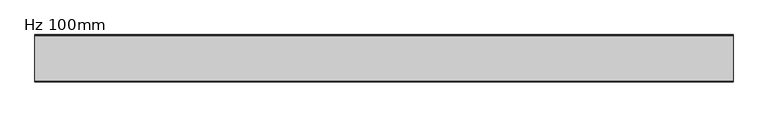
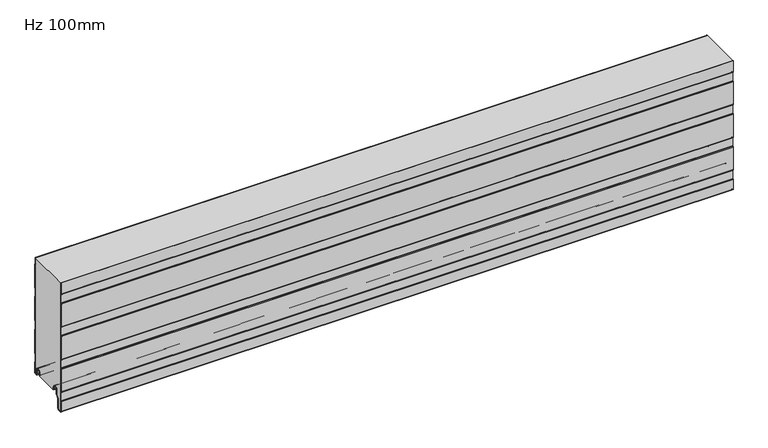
"""IFC4 building model written with IfcOpenShell, lengths in millimetres: plate geometry, KIP-MEX-KSS-1067-R19-CP-Hz-SL_SL : Hz 100mm."""

from ifc_helpers import new_model, si_unit, point, frame, frame_2d, origin, place, context, project, spatial, polyline, circle_curve, trimmed, segment, composite_curve, outline, extrude, source, transform, mapped, element, save
from ifc_brep_helpers import plane_surface, cylinder_surface, revolved_surface, advanced_brep


def hz_100mm_cce7cdb2(model_context):
    return source(origin(), model_context, "Body", "SolidModel", [
        advanced_brep(
        [(-740.0, -17.0015159, 2.0313088), (-740.0, -18.0015191, 1.0313116), (-740.0, -19.0015105, 2.0313088), (-740.0, -19.0015105, 6.0315125), (-740.0, -18.0015159, 6.0315125), (-740.0, -18.0015159, 8.7237223), (-740.0, -14.7015202, 12.023718), (-740.0, -10.301529, 12.023718), (-740.0, -7.0015335, 8.7237225), (-740.0, -7.0015335, -1.6962564), (-740.0, -5.2315393, -3.4662506), (-740.0, -0.9999916, -3.4662506), (-740.0, -0.9999916, 21.034026), (-740.0, -2.2002307, 22.4196686), (-740.0, -2.2002307, 41.7948349), (-740.0, -1.0, 43.1804679), (-740.0, -1.0, 97.2338833), (-740.0, -2.2002307, 98.6195162), (-740.0, -2.2002307, 117.9946825), (-740.0, -1.0, 119.3803155), (-740.0, -1.0, 173.4337309), (-740.0, -2.2002307, 174.8193638), (-740.0, -2.2002307, 194.1945301), (-740.0, -1.0, 195.5801631), (-740.0, -1.0, 249.6335785), (-740.0, -2.2002307, 251.0192114), (-740.0, -2.2002307, 266.0), (-740.0, -1.2002307, 266.0), (-740.0, -1.2002307, 251.3920919), (-740.0, -0.3417885, 250.4010442), (-740.0, 0.0, 249.4844273), (-740.0, 0.0, 195.7293142), (-740.0, -0.3417885, 194.8126973), (-740.0, -1.2002307, 193.8216497), (-740.0, -1.2002307, 175.1922443), (-740.0, -0.3417885, 174.2011966), (-740.0, 0.0, 173.2845797), (-740.0, 0.0, 119.5294666), (-740.0, -0.3417885, 118.6128497), (-740.0, -1.2002307, 117.6218021), (-740.0, -1.2002307, 98.9923967), (-740.0, -0.3417885, 98.001349), (-740.0, 0.0, 97.0847321), (-740.0, 0.0, 43.329619), (-740.0, -0.3417885, 42.4130021), (-740.0, -1.2002307, 41.4219545), (-740.0, -1.2002307, 22.7925491), (-740.0, -0.3417885, 21.8015014), (-740.0, 0.0, 20.8847931), (-740.0, 8.4e-06, -3.0662545), (-740.0, -1.3999878, -4.4662506), (-740.0, -5.2315393, -4.4662506), (-740.0, -8.0015335, -1.6962564), (-740.0, -8.0015335, 8.7237225), (-740.0, -10.301529, 11.023718), (-740.0, -14.7015202, 11.023718), (-740.0, -17.0015159, 8.7237223), (740.0, -17.0015159, 2.0313088), (740.0, -17.0015159, 8.7237223), (740.0, -14.7015202, 11.023718), (740.0, -10.301529, 11.023718), (740.0, -8.0015335, 8.7237225), (740.0, -8.0015335, -1.6962564), (740.0, -5.2315393, -4.4662506), (740.0, -1.3999878, -4.4662506), (740.0, 8.4e-06, -3.0662545), (740.0, 8.4e-06, 20.8848845), (740.0, -0.3417885, 21.8015014), (740.0, -1.2002307, 22.7925491), (740.0, -1.2002307, 41.4219545), (740.0, -0.3417885, 42.4130021), (740.0, 0.0, 43.329619), (740.0, 0.0, 97.0847321), (740.0, -0.3417885, 98.001349), (740.0, -1.2002307, 98.9923967), (740.0, -1.2002307, 117.6218021), (740.0, -0.3417885, 118.6128497), (740.0, 0.0, 119.5294666), (740.0, 0.0, 173.2845797), (740.0, -0.3417885, 174.2011966), (740.0, -1.2002307, 175.1922443), (740.0, -1.2002307, 193.8216497), (740.0, -0.3417885, 194.8126973), (740.0, 0.0, 195.7293142), (740.0, 0.0, 249.4844273), (740.0, -0.3417885, 250.4010442), (740.0, -1.2002307, 251.3920919), (740.0, -1.2002307, 266.0), (740.0, -2.2002307, 266.0), (740.0, -2.2002307, 251.0192114), (740.0, -1.0, 249.6335785), (740.0, -1.0, 195.5801631), (740.0, -2.2002307, 194.1945301), (740.0, -2.2002307, 174.8193638), (740.0, -1.0, 173.4337309), (740.0, -1.0, 119.3803155), (740.0, -2.2002307, 117.9946825), (740.0, -2.2002307, 98.6195162), (740.0, -1.0, 97.2338833), (740.0, -1.0, 43.1804679), (740.0, -2.2002307, 41.7948349), (740.0, -2.2002307, 22.4196686), (740.0, -0.9999916, 21.034026), (740.0, -0.9999916, -3.4662506), (740.0, -5.2315393, -3.4662506), (740.0, -7.0015335, -1.6962564), (740.0, -7.0015335, 8.7237225), (740.0, -10.301529, 12.023718), (740.0, -14.7015202, 12.023718), (740.0, -18.0015159, 8.7237223), (740.0, -18.0015159, 6.0315125), (740.0, -19.0015105, 6.0315125), (740.0, -19.0015105, 2.0313088), (740.0, -18.0015192, 1.0313116)],
        [
            (0, 1, circle_curve(frame((-740.0, -18.0015132, 2.0313088), z_axis=(-1.0, 0.0, 0.0), x_axis=(0.0, 0.0, 1.0)), 0.9999973)),
            (1, 2, circle_curve(frame((-740.0, -18.0015133, 2.0313088), z_axis=(-1.0, 0.0, 0.0), x_axis=(0.0, 0.0, 1.0)), 0.9999972)),
            (2, 3),
            (3, 4),
            (4, 5),
            (5, 6, circle_curve(frame((-740.0, -14.7015202, 8.7237223), z_axis=(-1.0, 0.0, 0.0), x_axis=(0.0, 0.0, 1.0)), 3.2999957)),
            (6, 7),
            (7, 8, circle_curve(frame((-740.0, -10.301529, 8.7237225), z_axis=(-1.0, 0.0, 0.0), x_axis=(0.0, 0.0, 1.0)), 3.2999955)),
            (8, 9),
            (9, 10, circle_curve(frame((-740.0, -5.2315393, -1.6962564), z_axis=(1.0, 0.0, 0.0), x_axis=(0.0, 0.0, 1.0)), 1.7699942)),
            (10, 11),
            (11, 12),
            (12, 13),
            (13, 14),
            (14, 15),
            (15, 16),
            (16, 17),
            (17, 18),
            (18, 19),
            (19, 20),
            (20, 21),
            (21, 22),
            (22, 23),
            (23, 24),
            (24, 25),
            (25, 26),
            (26, 27),
            (27, 28),
            (28, 29),
            (29, 30, circle_curve(frame((-740.0, -1.3999972, 249.4844273), z_axis=(-1.0, 0.0, 0.0), x_axis=(0.0, 0.0, 1.0)), 1.3999972)),
            (30, 31),
            (31, 32, circle_curve(frame((-740.0, -1.3999972, 195.7293142), z_axis=(-1.0, 0.0, 0.0), x_axis=(0.0, 0.0, 1.0)), 1.3999972)),
            (32, 33),
            (33, 34),
            (34, 35),
            (35, 36, circle_curve(frame((-740.0, -1.3999972, 173.2845797), z_axis=(-1.0, 0.0, 0.0), x_axis=(0.0, 0.0, 1.0)), 1.3999972)),
            (36, 37),
            (37, 38, circle_curve(frame((-740.0, -1.3999972, 119.5294666), z_axis=(-1.0, 0.0, 0.0), x_axis=(0.0, 0.0, 1.0)), 1.3999972)),
            (38, 39),
            (39, 40),
            (40, 41),
            (41, 42, circle_curve(frame((-740.0, -1.3999972, 97.0847321), z_axis=(-1.0, 0.0, 0.0), x_axis=(0.0, 0.0, 1.0)), 1.3999972)),
            (42, 43),
            (43, 44, circle_curve(frame((-740.0, -1.3999972, 43.329619), z_axis=(-1.0, 0.0, 0.0), x_axis=(0.0, 0.0, 1.0)), 1.3999972)),
            (44, 45),
            (45, 46),
            (46, 47),
            (47, 48, circle_curve(frame((-740.0, -1.3999972, 20.8848845), z_axis=(-1.0, 0.0, 0.0), x_axis=(0.0, 0.0, 1.0)), 1.3999972)),
            (48, 49),
            (49, 50, circle_curve(frame((-740.0, -1.3999878, -3.0662545), z_axis=(-1.0, 0.0, 0.0), x_axis=(0.0, 0.0, 1.0)), 1.3999962)),
            (50, 51),
            (51, 52, circle_curve(frame((-740.0, -5.2315393, -1.6962564), z_axis=(-1.0, 0.0, 0.0), x_axis=(0.0, 0.0, 1.0)), 2.7699942)),
            (52, 53),
            (53, 54, circle_curve(frame((-740.0, -10.301529, 8.7237225), z_axis=(1.0, 0.0, 0.0), x_axis=(0.0, 0.0, 1.0)), 2.2999955)),
            (54, 55),
            (55, 56, circle_curve(frame((-740.0, -14.7015202, 8.7237223), z_axis=(1.0, 0.0, 0.0), x_axis=(0.0, 0.0, 1.0)), 2.2999957)),
            (56, 0),
            (57, 58),
            (58, 59, circle_curve(frame((740.0, -14.7015202, 8.7237223), z_axis=(-1.0, 0.0, 0.0), x_axis=(0.0, 0.0, 1.0)), 2.2999957)),
            (59, 60),
            (60, 61, circle_curve(frame((740.0, -10.301529, 8.7237225), z_axis=(-1.0, 0.0, 0.0), x_axis=(0.0, 0.0, 1.0)), 2.2999955)),
            (61, 62),
            (62, 63, circle_curve(frame((740.0, -5.2315393, -1.6962564), z_axis=(1.0, 0.0, 0.0), x_axis=(0.0, 0.0, 1.0)), 2.7699942)),
            (63, 64),
            (64, 65, circle_curve(frame((740.0, -1.3999878, -3.0662545), z_axis=(1.0, 0.0, 0.0), x_axis=(0.0, 0.0, 1.0)), 1.3999962)),
            (65, 66),
            (66, 67, circle_curve(frame((740.0, -1.3999972, 20.8848845), z_axis=(1.0, 0.0, 0.0), x_axis=(0.0, 0.0, 1.0)), 1.3999972)),
            (67, 68),
            (68, 69),
            (69, 70),
            (70, 71, circle_curve(frame((740.0, -1.3999972, 43.329619), z_axis=(1.0, 0.0, 0.0), x_axis=(0.0, 0.0, 1.0)), 1.3999972)),
            (71, 72),
            (72, 73, circle_curve(frame((740.0, -1.3999972, 97.0847321), z_axis=(1.0, 0.0, 0.0), x_axis=(0.0, 0.0, 1.0)), 1.3999972)),
            (73, 74),
            (74, 75),
            (75, 76),
            (76, 77, circle_curve(frame((740.0, -1.3999972, 119.5294666), z_axis=(1.0, 0.0, 0.0), x_axis=(0.0, 0.0, 1.0)), 1.3999972)),
            (77, 78),
            (78, 79, circle_curve(frame((740.0, -1.3999972, 173.2845797), z_axis=(1.0, 0.0, 0.0), x_axis=(0.0, 0.0, 1.0)), 1.3999972)),
            (79, 80),
            (80, 81),
            (81, 82),
            (82, 83, circle_curve(frame((740.0, -1.3999972, 195.7293142), z_axis=(1.0, 0.0, 0.0), x_axis=(0.0, 0.0, 1.0)), 1.3999972)),
            (83, 84),
            (84, 85, circle_curve(frame((740.0, -1.3999972, 249.4844273), z_axis=(1.0, 0.0, 0.0), x_axis=(0.0, 0.0, 1.0)), 1.3999972)),
            (85, 86),
            (86, 87),
            (87, 88),
            (88, 89),
            (89, 90),
            (90, 91),
            (91, 92),
            (92, 93),
            (93, 94),
            (94, 95),
            (95, 96),
            (96, 97),
            (97, 98),
            (98, 99),
            (99, 100),
            (100, 101),
            (101, 102),
            (102, 103),
            (103, 104),
            (104, 105, circle_curve(frame((740.0, -5.2315393, -1.6962564), z_axis=(-1.0, 0.0, 0.0), x_axis=(0.0, 0.0, 1.0)), 1.7699942)),
            (105, 106),
            (106, 107, circle_curve(frame((740.0, -10.301529, 8.7237225), z_axis=(1.0, 0.0, 0.0), x_axis=(0.0, 0.0, 1.0)), 3.2999955)),
            (107, 108),
            (108, 109, circle_curve(frame((740.0, -14.7015202, 8.7237223), z_axis=(1.0, 0.0, 0.0), x_axis=(0.0, 0.0, 1.0)), 3.2999957)),
            (109, 110),
            (110, 111),
            (111, 112),
            (112, 113, circle_curve(frame((740.0, -18.0015133, 2.0313088), z_axis=(1.0, 0.0, 0.0), x_axis=(0.0, 0.0, 1.0)), 0.9999972)),
            (113, 57, circle_curve(frame((740.0, -18.0015132, 2.0313088), z_axis=(1.0, 0.0, 0.0), x_axis=(0.0, 0.0, 1.0)), 0.9999973)),
            (56, 58),
            (57, 0),
            (55, 59),
            (54, 60),
            (53, 61),
            (52, 62),
            (51, 63),
            (50, 64),
            (49, 65),
            (48, 66),
            (47, 67),
            (46, 68),
            (45, 69),
            (44, 70),
            (43, 71),
            (42, 72),
            (41, 73),
            (40, 74),
            (39, 75),
            (38, 76),
            (37, 77),
            (36, 78),
            (35, 79),
            (34, 80),
            (33, 81),
            (32, 82),
            (31, 83),
            (30, 84),
            (29, 85),
            (28, 86),
            (27, 87),
            (88, 26),
            (25, 89),
            (24, 90),
            (23, 91),
            (22, 92),
            (21, 93),
            (20, 94),
            (19, 95),
            (18, 96),
            (17, 97),
            (16, 98),
            (15, 99),
            (14, 100),
            (13, 101),
            (12, 102),
            (11, 103),
            (10, 104),
            (9, 105),
            (8, 106),
            (7, 107),
            (6, 108),
            (5, 109),
            (4, 110),
            (3, 111),
            (2, 112),
            (1, 113),
        ],
        [
            plane_surface(frame((-740.0, 0.0, 533.4), z_axis=(-1.0, 0.0, 0.0), x_axis=(0.0, 1.0, 0.0))),
            plane_surface(frame((740.0, 0.0, 533.4), z_axis=(1.0, 0.0, 0.0), x_axis=(0.0, 1.0, 0.0))),
            plane_surface(frame((-740.0, -17.0015159, 2.0313088), z_axis=(0.0, 1.0, 0.0), x_axis=(1.0, 0.0, 0.0))),
            revolved_surface(polyline([(740.0, -14.7015202, 11.023718), (-740.0, -14.7015202, 11.023718)]), (-740.0, -14.7015202, 8.7237223), (1.0, 0.0, 0.0)),
            plane_surface(frame((-740.0, -14.7015202, 11.023718), z_axis=(0.0, 0.0, -1.0), x_axis=(1.0, 0.0, 0.0))),
            revolved_surface(polyline([(740.0, -10.301529, 11.023717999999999), (-740.0, -10.301529, 11.023717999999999)]), (-740.0, -10.301529, 8.7237225), (1.0, 0.0, 0.0)),
            plane_surface(frame((-740.0, -8.0015335, 8.7237225), z_axis=(0.0, -1.0, 0.0), x_axis=(1.0, 0.0, 0.0))),
            cylinder_surface(frame((-740.0, -5.2315393, -1.6962564), z_axis=(-1.0, 0.0, 0.0), x_axis=(0.0, 0.0, 1.0)), 2.7699942),
            plane_surface(frame((-740.0, -5.2315393, -4.4662506), z_axis=(0.0, 0.0, -1.0), x_axis=(1.0, 0.0, 0.0))),
            cylinder_surface(frame((-740.0, -1.3999878, -3.0662545), z_axis=(-1.0, 0.0, 0.0), x_axis=(0.0, 0.0, 1.0)), 1.3999962),
            plane_surface(frame((-740.0, 8.4e-06, -3.0662545), z_axis=(0.0, 1.0, 0.0), x_axis=(1.0, 0.0, 0.0))),
            cylinder_surface(frame((-740.0, -1.3999972, 20.8848845), z_axis=(-1.0, 0.0, 0.0), x_axis=(0.0, 0.0, 1.0)), 1.3999972),
            plane_surface(frame((-740.0, -0.3417885, 21.8015014), z_axis=(0.0, 0.755864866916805, 0.6547276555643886), x_axis=(1.0, 0.0, 0.0))),
            plane_surface(frame((-740.0, -1.2002307, 32.1072518), z_axis=(0.0, 1.0, 0.0), x_axis=(1.0, 0.0, 0.0))),
            plane_surface(frame((-740.0, -1.2002307, 41.4219545), z_axis=(0.0, 0.755864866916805, -0.6547276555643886), x_axis=(1.0, 0.0, 0.0))),
            cylinder_surface(frame((-740.0, -1.3999972, 43.329619), z_axis=(-1.0, 0.0, 0.0), x_axis=(0.0, 0.0, 1.0)), 1.3999972),
            plane_surface(frame((-740.0, 0.0, 43.329619), z_axis=(0.0, 1.0, 0.0), x_axis=(1.0, 0.0, 0.0))),
            cylinder_surface(frame((-740.0, -1.3999972, 97.0847321), z_axis=(-1.0, 0.0, 0.0), x_axis=(0.0, 0.0, 1.0)), 1.3999972),
            plane_surface(frame((-740.0, -0.3417885, 98.001349), z_axis=(0.0, 0.755864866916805, 0.6547276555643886), x_axis=(1.0, 0.0, 0.0))),
            plane_surface(frame((-740.0, -1.2002307, 108.3070994), z_axis=(0.0, 1.0, 0.0), x_axis=(1.0, 0.0, 0.0))),
            plane_surface(frame((-740.0, -1.2002307, 117.6218021), z_axis=(0.0, 0.755864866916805, -0.6547276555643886), x_axis=(1.0, 0.0, 0.0))),
            cylinder_surface(frame((-740.0, -1.3999972, 119.5294666), z_axis=(-1.0, 0.0, 0.0), x_axis=(0.0, 0.0, 1.0)), 1.3999972),
            plane_surface(frame((-740.0, 0.0, 119.5294666), z_axis=(0.0, 1.0, 0.0), x_axis=(1.0, 0.0, 0.0))),
            cylinder_surface(frame((-740.0, -1.3999972, 173.2845797), z_axis=(-1.0, 0.0, 0.0), x_axis=(0.0, 0.0, 1.0)), 1.3999972),
            plane_surface(frame((-740.0, -0.3417885, 174.2011966), z_axis=(0.0, 0.755864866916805, 0.6547276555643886), x_axis=(1.0, 0.0, 0.0))),
            plane_surface(frame((-740.0, -1.2002307, 184.506947), z_axis=(0.0, 1.0, 0.0), x_axis=(1.0, 0.0, 0.0))),
            plane_surface(frame((-740.0, -1.2002307, 193.8216497), z_axis=(0.0, 0.755864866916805, -0.6547276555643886), x_axis=(1.0, 0.0, 0.0))),
            cylinder_surface(frame((-740.0, -1.3999972, 195.7293142), z_axis=(-1.0, 0.0, 0.0), x_axis=(0.0, 0.0, 1.0)), 1.3999972),
            plane_surface(frame((-740.0, 0.0, 195.7293142), z_axis=(0.0, 1.0, 0.0), x_axis=(1.0, 0.0, 0.0))),
            cylinder_surface(frame((-740.0, -1.3999972, 249.4844273), z_axis=(-1.0, 0.0, 0.0), x_axis=(0.0, 0.0, 1.0)), 1.3999972),
            plane_surface(frame((-740.0, -0.3417885, 250.4010442), z_axis=(0.0, 0.755864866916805, 0.6547276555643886), x_axis=(1.0, 0.0, 0.0))),
            plane_surface(frame((-740.0, -1.2002307, 260.7067946), z_axis=(0.0, 1.0, 0.0), x_axis=(1.0, 0.0, 0.0))),
            plane_surface(frame((-740.0, -2.2002307, 270.3943777), z_axis=(0.0, -1.0, 0.0), x_axis=(1.0, 0.0, 0.0))),
            plane_surface(frame((-740.0, -2.2002307, 251.0192114), z_axis=(0.0, -0.755864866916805, -0.6547276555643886), x_axis=(1.0, 0.0, 0.0))),
            plane_surface(frame((-740.0, -1.0, 249.6335785), z_axis=(0.0, -1.0, 0.0), x_axis=(1.0, 0.0, 0.0))),
            plane_surface(frame((-740.0, -1.0, 195.5801631), z_axis=(0.0, -0.755864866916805, 0.6547276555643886), x_axis=(1.0, 0.0, 0.0))),
            plane_surface(frame((-740.0, -2.2002307, 194.1945301), z_axis=(0.0, -1.0, 0.0), x_axis=(1.0, 0.0, 0.0))),
            plane_surface(frame((-740.0, -2.2002307, 174.8193638), z_axis=(0.0, -0.755864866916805, -0.6547276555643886), x_axis=(1.0, 0.0, 0.0))),
            plane_surface(frame((-740.0, -1.0, 173.4337309), z_axis=(0.0, -1.0, 0.0), x_axis=(1.0, 0.0, 0.0))),
            plane_surface(frame((-740.0, -1.0, 119.3803155), z_axis=(0.0, -0.755864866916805, 0.6547276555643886), x_axis=(1.0, 0.0, 0.0))),
            plane_surface(frame((-740.0, -2.2002307, 117.9946825), z_axis=(0.0, -1.0, 0.0), x_axis=(1.0, 0.0, 0.0))),
            plane_surface(frame((-740.0, -2.2002307, 98.6195162), z_axis=(0.0, -0.755864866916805, -0.6547276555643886), x_axis=(1.0, 0.0, 0.0))),
            plane_surface(frame((-740.0, -1.0, 97.2338833), z_axis=(0.0, -1.0, 0.0), x_axis=(1.0, 0.0, 0.0))),
            plane_surface(frame((-740.0, -1.0, 43.1804679), z_axis=(0.0, -0.755864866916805, 0.6547276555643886), x_axis=(1.0, 0.0, 0.0))),
            plane_surface(frame((-740.0, -2.2002307, 41.7948349), z_axis=(0.0, -1.0, 0.0), x_axis=(1.0, 0.0, 0.0))),
            plane_surface(frame((-740.0, -2.2002307, 22.4196686), z_axis=(0.0, -0.755864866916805, -0.6547276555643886), x_axis=(1.0, 0.0, 0.0))),
            plane_surface(frame((-740.0, -0.9999916, 21.034026), z_axis=(0.0, -1.0, 0.0), x_axis=(1.0, 0.0, 0.0))),
            plane_surface(frame((-740.0, -0.9999916, -3.4662506), z_axis=(0.0, 0.0, 1.0), x_axis=(1.0, 0.0, 0.0))),
            revolved_surface(polyline([(740.0, -5.2315393, 0.07373779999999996), (-740.0, -5.2315393, 0.07373779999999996)]), (-740.0, -5.2315393, -1.6962564), (1.0, 0.0, 0.0)),
            plane_surface(frame((-740.0, -7.0015335, -1.6962564), z_axis=(0.0, 1.0, 0.0), x_axis=(1.0, 0.0, 0.0))),
            cylinder_surface(frame((-740.0, -10.301529, 8.7237225), z_axis=(-1.0, 0.0, 0.0), x_axis=(0.0, 0.0, 1.0)), 3.2999955),
            plane_surface(frame((-740.0, -10.301529, 12.023718), z_axis=(0.0, 0.0, 1.0), x_axis=(1.0, 0.0, 0.0))),
            cylinder_surface(frame((-740.0, -14.7015202, 8.7237223), z_axis=(-1.0, 0.0, 0.0), x_axis=(0.0, 0.0, 1.0)), 3.2999957),
            plane_surface(frame((-740.0, -18.0015159, 8.7237223), z_axis=(0.0, -1.0, 0.0), x_axis=(1.0, 0.0, 0.0))),
            plane_surface(frame((-740.0, -18.0015159, 6.0315125), z_axis=(0.0, 0.0, 1.0), x_axis=(1.0, 0.0, 0.0))),
            plane_surface(frame((-740.0, -19.0015105, 6.0315125), z_axis=(0.0, -1.0, 0.0), x_axis=(1.0, 0.0, 0.0))),
            cylinder_surface(frame((-740.0, -18.0015133, 2.0313088), z_axis=(-1.0, 0.0, 0.0), x_axis=(0.0, 0.0, 1.0)), 0.9999972),
            cylinder_surface(frame((-740.0, -18.0015132, 2.0313088), z_axis=(-1.0, 0.0, 0.0), x_axis=(0.0, 0.0, 1.0)), 0.9999973),
            plane_surface(frame((740.0, 10.0, 266.0), z_axis=(0.0, 0.0, 1.0), x_axis=(-1.0, 0.0, 0.0))),
        ],
        [
            (0, [[1, 2, 3, 4, 5, 6, 7, 8, 9, 10, 11, 12, 13, 14, 15, 16, 17, 18, 19, 20, 21, 22, 23, 24, 25, 26, 27, 28, 29, 30, 31, 32, 33, 34, 35, 36, 37, 38, 39, 40, 41, 42, 43, 44, 45, 46, 47, 48, 49, 50, 51, 52, 53, 54, 55, 56, 57]]),
            (1, [[58, 59, 60, 61, 62, 63, 64, 65, 66, 67, 68, 69, 70, 71, 72, 73, 74, 75, 76, 77, 78, 79, 80, 81, 82, 83, 84, 85, 86, 87, 88, 89, 90, 91, 92, 93, 94, 95, 96, 97, 98, 99, 100, 101, 102, 103, 104, 105, 106, 107, 108, 109, 110, 111, 112, 113, 114]]),
            (2, [[115, -58, 116, -57]]),
            (3, [[117, -59, -115, -56]]),
            (4, [[118, -60, -117, -55]]),
            (5, [[119, -61, -118, -54]]),
            (6, [[120, -62, -119, -53]]),
            (7, [[121, -63, -120, -52]]),
            (8, [[122, -64, -121, -51]]),
            (9, [[123, -65, -122, -50]]),
            (10, [[124, -66, -123, -49]]),
            (11, [[125, -67, -124, -48]]),
            (12, [[126, -68, -125, -47]]),
            (13, [[127, -69, -126, -46]]),
            (14, [[128, -70, -127, -45]]),
            (15, [[129, -71, -128, -44]]),
            (16, [[130, -72, -129, -43]]),
            (17, [[131, -73, -130, -42]]),
            (18, [[132, -74, -131, -41]]),
            (19, [[133, -75, -132, -40]]),
            (20, [[134, -76, -133, -39]]),
            (21, [[135, -77, -134, -38]]),
            (22, [[136, -78, -135, -37]]),
            (23, [[137, -79, -136, -36]]),
            (24, [[138, -80, -137, -35]]),
            (25, [[139, -81, -138, -34]]),
            (26, [[140, -82, -139, -33]]),
            (27, [[141, -83, -140, -32]]),
            (28, [[142, -84, -141, -31]]),
            (29, [[143, -85, -142, -30]]),
            (30, [[144, -86, -143, -29]]),
            (31, [[-28, 145, -87, -144]]),
            (32, [[-89, 146, -26, 147]]),
            (33, [[148, -90, -147, -25]]),
            (34, [[149, -91, -148, -24]]),
            (35, [[150, -92, -149, -23]]),
            (36, [[151, -93, -150, -22]]),
            (37, [[152, -94, -151, -21]]),
            (38, [[153, -95, -152, -20]]),
            (39, [[154, -96, -153, -19]]),
            (40, [[155, -97, -154, -18]]),
            (41, [[156, -98, -155, -17]]),
            (42, [[157, -99, -156, -16]]),
            (43, [[158, -100, -157, -15]]),
            (44, [[159, -101, -158, -14]]),
            (45, [[160, -102, -159, -13]]),
            (46, [[161, -103, -160, -12]]),
            (47, [[162, -104, -161, -11]]),
            (48, [[163, -105, -162, -10]]),
            (49, [[164, -106, -163, -9]]),
            (50, [[165, -107, -164, -8]]),
            (51, [[166, -108, -165, -7]]),
            (52, [[167, -109, -166, -6]]),
            (53, [[168, -110, -167, -5]]),
            (54, [[169, -111, -168, -4]]),
            (55, [[170, -112, -169, -3]]),
            (56, [[171, -113, -170, -2]]),
            (57, [[-116, -114, -171, -1]]),
            (58, [[-146, -88, -145, -27]]),
        ],
    ),
        extrude(outline(composite_curve([segment(trimmed(circle_curve(frame_2d((-98.6007733, -10.6415934)), 1.3998661), [point((-100.0006394, -10.6415934))], [point((-99.5333971, -9.5976403))], False, "CARTESIAN"), True, "CONTINUOUS"), segment(polyline([(-99.5333971, -9.5976403), (-98.8006709, -8.8649141), (-98.8006709, 10.0260713), (-99.5336365, 10.7590369)]), True, "CONTINUOUS"), segment(trimmed(circle_curve(frame_2d((-98.6009253, 11.8030877)), 1.3999972), [point((-99.5336365, 10.7590369))], [point((-100.0009016, 11.810741))], False, "CARTESIAN"), True, "CONTINUOUS"), segment(polyline([(-100.0009016, 11.810741), (-100.0009016, 65.5582542)]), True, "CONTINUOUS"), segment(trimmed(circle_curve(frame_2d((-98.6009044, 65.5582542)), 1.3999972), [point((-100.0009016, 65.5582542))], [point((-99.5336156, 66.602305))], False, "CARTESIAN"), True, "CONTINUOUS"), segment(polyline([(-99.5336156, 66.602305), (-98.8006709, 67.3352497), (-98.8006709, 86.2259189), (-99.5336365, 86.9588845)]), True, "CONTINUOUS"), segment(trimmed(circle_curve(frame_2d((-98.6009253, 88.0029353)), 1.3999972), [point((-99.5336365, 86.9588845))], [point((-100.0009016, 88.0105886))], False, "CARTESIAN"), True, "CONTINUOUS"), segment(polyline([(-100.0009016, 88.0105886), (-100.0009016, 141.7581018)]), True, "CONTINUOUS"), segment(trimmed(circle_curve(frame_2d((-98.6009044, 141.7581018)), 1.3999972), [point((-100.0009016, 141.7581018))], [point((-99.5336156, 142.8021526))], False, "CARTESIAN"), True, "CONTINUOUS"), segment(polyline([(-99.5336156, 142.8021526), (-98.8006709, 143.5350973), (-98.8006709, 162.4257665), (-99.5336365, 163.1587321)]), True, "CONTINUOUS"), segment(trimmed(circle_curve(frame_2d((-98.6009253, 164.2027829)), 1.3999972), [point((-99.5336365, 163.1587321))], [point((-100.0009016, 164.2104362))], False, "CARTESIAN"), True, "CONTINUOUS"), segment(polyline([(-100.0009016, 164.2104362), (-100.0009016, 217.9579494)]), True, "CONTINUOUS"), segment(trimmed(circle_curve(frame_2d((-98.6009044, 217.9579494)), 1.3999972), [point((-100.0009016, 217.9579494))], [point((-99.5336156, 219.0020002))], False, "CARTESIAN"), True, "CONTINUOUS"), segment(polyline([(-99.5336156, 219.0020002), (-98.8006709, 219.7349449), (-98.8006709, 238.6256141), (-99.5336365, 239.3585797)]), True, "CONTINUOUS"), segment(trimmed(circle_curve(frame_2d((-98.6009253, 240.4026305)), 1.3999972), [point((-99.5336365, 239.3585797))], [point((-100.0009016, 240.4102838))], False, "CARTESIAN"), True, "CONTINUOUS"), segment(polyline([(-100.0009016, 240.4102838), (-100.0009016, 266.0), (-99.0009016, 266.0), (-99.0009016, 240.2405326), (-97.8006709, 239.0403019), (-97.8006709, 219.3208894), (-99.0009016, 218.1206587), (-99.0009016, 164.0405269), (-97.8006709, 162.8402962), (-97.8006709, 143.1208837), (-99.0009016, 141.920653), (-99.0009016, 87.8405213), (-97.8006709, 86.6402905), (-97.8006709, 66.920878), (-99.0009016, 65.7206473), (-99.0009016, 11.6405156), (-97.8006709, 10.4402849), (-97.8006709, -9.2791277), (-99.0006394, -10.4790962), (-99.0006394, -32.4521176)]), True, "CONTINUOUS"), segment(trimmed(circle_curve(frame_2d((-96.4304001, -32.4521176)), 2.5702393), [point((-99.0006394, -32.4521176))], [point((-96.2063145, -35.0125699))], True, "CARTESIAN"), True, "CONTINUOUS"), segment(polyline([(-96.2063145, -35.0125699), (-91.2244936, -34.5765709)]), True, "CONTINUOUS"), segment(trimmed(circle_curve(frame_2d((-91.7058842, -31.9198392)), 2.6999926), [point((-91.2244936, -34.5765709))], [point((-89.0058916, -31.9198392))], True, "CARTESIAN"), True, "CONTINUOUS"), segment(polyline([(-89.0058916, -31.9198392), (-89.0058916, -9.8247096), (-83.5038205, -4.3226385)]), True, "CONTINUOUS"), segment(trimmed(circle_curve(frame_2d((-84.7058982, -3.1205608)), 1.6999946), [point((-83.5038205, -4.3226385))], [point((-83.0059036, -3.1205608))], True, "CARTESIAN"), True, "CONTINUOUS"), segment(polyline([(-83.0059036, -3.1205608), (-83.0059036, 8.6903283)]), True, "CONTINUOUS"), segment(trimmed(circle_curve(frame_2d((-79.6559083, 8.6903283)), 3.3499953), [point((-83.0059036, 8.6903283))], [point((-79.6559083, 12.0403236))], False, "CARTESIAN"), True, "CONTINUOUS"), segment(polyline([(-79.6559083, 12.0403236), (-75.2559171, 12.0403236)]), True, "CONTINUOUS"), segment(trimmed(circle_curve(frame_2d((-75.2559171, 8.6903283)), 3.3499953), [point((-75.2559171, 12.0403236))], [point((-71.9059218, 8.6903283))], False, "CARTESIAN"), True, "CONTINUOUS"), segment(polyline([(-71.9059218, 8.6903283), (-71.9059218, 5.9912173), (-70.5074429, 5.9912173), (-70.5074429, 2.2328239)]), True, "CONTINUOUS"), segment(trimmed(circle_curve(frame_2d((-71.7074396, 2.2313092)), 1.1999976), [point((-70.5074429, 2.2328239))], [point((-71.6769177, 1.0316999))], False, "CARTESIAN"), True, "CONTINUOUS"), segment(trimmed(circle_curve(frame_2d((-71.7074396, 2.2313092)), 1.1999976), [point((-71.6769177, 1.0316999))], [point((-72.9059218, 2.1710221))], False, "CARTESIAN"), True, "CONTINUOUS"), segment(polyline([(-72.9059218, 2.1710221), (-72.9059218, 8.6903283)]), True, "CONTINUOUS"), segment(trimmed(circle_curve(frame_2d((-75.2559171, 8.6903283)), 2.3499953), [point((-72.9059218, 8.6903283))], [point((-75.2559171, 11.0403236))], True, "CARTESIAN"), True, "CONTINUOUS"), segment(polyline([(-75.2559171, 11.0403236), (-79.6559083, 11.0403236)]), True, "CONTINUOUS"), segment(trimmed(circle_curve(frame_2d((-79.6559083, 8.6903283)), 2.3499953), [point((-79.6559083, 11.0403236))], [point((-82.0059036, 8.6903283))], True, "CARTESIAN"), True, "CONTINUOUS"), segment(polyline([(-82.0059036, 8.6903283), (-82.0059036, -3.1205608)]), True, "CONTINUOUS"), segment(trimmed(circle_curve(frame_2d((-84.7058982, -3.1205608)), 2.6999946), [point((-82.0059036, -3.1205608))], [point((-82.7967137, -5.0297453))], False, "CARTESIAN"), True, "CONTINUOUS"), segment(polyline([(-82.7967137, -5.0297453), (-87.6251312, -9.8581627)]), True, "CONTINUOUS"), segment(trimmed(circle_curve(frame_2d((-86.7058942, -10.7773997)), 1.2999974), [point((-87.6251312, -9.8581627))], [point((-88.0058916, -10.7773997))], True, "CARTESIAN"), True, "CONTINUOUS"), segment(polyline([(-88.0058916, -10.7773997), (-88.0058916, -31.9198392)]), True, "CONTINUOUS"), segment(trimmed(circle_curve(frame_2d((-91.7058842, -31.9198392)), 3.6999926), [point((-88.0058916, -31.9198392))], [point((-91.0950831, -35.5690675))], False, "CARTESIAN"), True, "CONTINUOUS"), segment(polyline([(-91.0950831, -35.5690675), (-96.1191297, -36.008762)]), True, "CONTINUOUS"), segment(trimmed(circle_curve(frame_2d((-96.4304001, -32.4521176)), 3.5702393), [point((-96.1191297, -36.008762))], [point((-100.0006394, -32.4521176))], False, "CARTESIAN"), True, "CONTINUOUS"), segment(polyline([(-100.0006394, -32.4521176), (-100.0006394, -10.6415934)]), True, "CONTINUOUS")], self_intersect=False)), frame((-740.0, 0.0, 0.0), z_axis=(1.0, 0.0, 0.0), x_axis=(0.0, 1.0, 0.0)), (0.0, 0.0, 1.0), 1480.0),
        extrude(outline(composite_curve([segment(trimmed(circle_curve(frame_2d((-71.7013969, 2.2313092)), 1.1999976), [point((-71.670875, 1.0316999))], [point((-70.5014003, 2.2328239))], True, "CARTESIAN"), True, "CONTINUOUS"), segment(polyline([(-70.5014003, 2.2328239), (-70.5014003, 5.9912173), (-71.8998791, 5.9912173), (-71.8998791, 8.6903283)]), True, "CONTINUOUS"), segment(trimmed(circle_curve(frame_2d((-75.2498744, 8.6903283)), 3.3499953), [point((-71.8998791, 8.6903283))], [point((-75.2498744, 12.0403236))], True, "CARTESIAN"), True, "CONTINUOUS"), segment(polyline([(-75.2498744, 12.0403236), (-79.6498656, 12.0403236)]), True, "CONTINUOUS"), segment(trimmed(circle_curve(frame_2d((-79.6498656, 8.6903283)), 3.3499953), [point((-79.6498656, 12.0403236))], [point((-82.9998609, 8.6903283))], True, "CARTESIAN"), True, "CONTINUOUS"), segment(polyline([(-82.9998609, 8.6903283), (-82.9998609, -3.1205608)]), True, "CONTINUOUS"), segment(trimmed(circle_curve(frame_2d((-84.6998555, -3.1205608)), 1.6999946), [point((-82.9998609, -3.1205608))], [point((-83.4977778, -4.3226385))], False, "CARTESIAN"), True, "CONTINUOUS"), segment(polyline([(-83.4977778, -4.3226385), (-88.9998489, -9.8247096), (-88.9998489, -31.9198392)]), True, "CONTINUOUS"), segment(trimmed(circle_curve(frame_2d((-91.6998415, -31.9198392)), 2.6999926), [point((-88.9998489, -31.9198392))], [point((-91.2184509, -34.5765709))], False, "CARTESIAN"), True, "CONTINUOUS"), segment(polyline([(-91.2184509, -34.5765709), (-96.2002718, -35.0125699)]), True, "CONTINUOUS"), segment(trimmed(circle_curve(frame_2d((-96.4243575, -32.4521176)), 2.5702393), [point((-96.2002718, -35.0125699))], [point((-98.9945967, -32.4521176))], False, "CARTESIAN"), True, "CONTINUOUS"), segment(polyline([(-98.9945967, -32.4521176), (-98.9945967, -10.4790962), (-97.7946282, -9.2791277), (-97.7946282, 10.4402849), (-98.9948589, 11.6405156), (-98.9948589, 65.7206473), (-97.7946282, 66.920878), (-97.7946282, 86.6402905), (-98.9948589, 87.8405213), (-98.9948589, 141.920653), (-97.7946282, 143.1208837), (-97.7946282, 162.8402962), (-98.9948589, 164.0405269), (-98.9948589, 218.1206587), (-97.7946282, 219.3208894), (-97.7946282, 239.0403019), (-98.9948589, 240.2405326), (-98.9948589, 266.0), (-2.2002307, 266.0), (-2.2002307, 251.0192115), (-1.0, 249.6335785), (-1.0, 195.5801631), (-2.2002307, 194.1945302), (-2.2002307, 174.8193639), (-1.0, 173.4337309), (-1.0, 119.3803155), (-2.2002307, 117.9946826), (-2.2002307, 98.6195163), (-1.0, 97.2338833), (-1.0, 43.1804679), (-2.2002307, 41.794835), (-2.2002307, 22.4196687), (-0.9999916, 21.034026), (-0.9999916, -3.4662506), (-5.2315389, -3.4662506)]), True, "CONTINUOUS"), segment(trimmed(circle_curve(frame_2d((-5.2315389, -1.6962564)), 1.7699942), [point((-5.2315389, -3.4662506))], [point((-7.0015331, -1.6962564))], False, "CARTESIAN"), True, "CONTINUOUS"), segment(polyline([(-7.0015331, -1.6962564), (-7.0015331, 8.7237222)]), True, "CONTINUOUS"), segment(trimmed(circle_curve(frame_2d((-10.301529, 8.7237222)), 3.2999959), [point((-7.0015331, 8.7237222))], [point((-10.301529, 12.023718))], True, "CARTESIAN"), True, "CONTINUOUS"), segment(polyline([(-10.301529, 12.023718), (-14.7015202, 12.023718)]), True, "CONTINUOUS"), segment(trimmed(circle_curve(frame_2d((-14.7015202, 8.7237223)), 3.2999957), [point((-14.7015202, 12.023718))], [point((-18.0015159, 8.7237223))], True, "CARTESIAN"), True, "CONTINUOUS"), segment(polyline([(-18.0015159, 8.7237223), (-18.0015159, 6.0315125), (-19.0015105, 6.0315125), (-19.0015105, 2.0313089)]), True, "CONTINUOUS"), segment(trimmed(circle_curve(frame_2d((-18.0015133, 2.0313089)), 0.9999972), [point((-19.0015105, 2.0313089))], [point((-18.0015192, 1.0313117))], True, "CARTESIAN"), True, "CONTINUOUS"), segment(polyline([(-18.0015192, 1.0313117), (-19.0328308, 0.0), (-70.6391751, 0.0), (-71.670875, 1.0316999)]), True, "CONTINUOUS")], self_intersect=False)), frame((-740.0, 0.0, 0.0), z_axis=(1.0, 0.0, 0.0), x_axis=(0.0, 1.0, 0.0)), (0.0, 0.0, 1.0), 1480.0),
    ])


if __name__ == "__main__":
    model = new_model("IFC4")
    model_context = context("Model", 3, world=origin())
    ifc_project = project(units=[si_unit("LENGTHUNIT", "METRE", prefix="MILLI")], contexts=[model_context])
    site = spatial("IfcSite", under=ifc_project)
    building = spatial("IfcBuilding", under=site)
    placement = place(None, origin())
    hz_100mm_shape = hz_100mm_cce7cdb2(model_context)
    element("IfcPlate", 1, ObjectType="KIP-MEX-KSS-1067-R19-CP-Hz-SL_SL : Hz 100mm", at=placement, inside=building, context=model_context, shape_type="MappedRepresentation", body=[
        mapped(hz_100mm_shape, transform((0.0, 0.0, 0.0), x_axis=(1.0, 0.0, 0.0), y_axis=(0.0, 1.0, 0.0), z_axis=(0.0, 0.0, 1.0))),
    ])
    save(model, "model.ifc")
